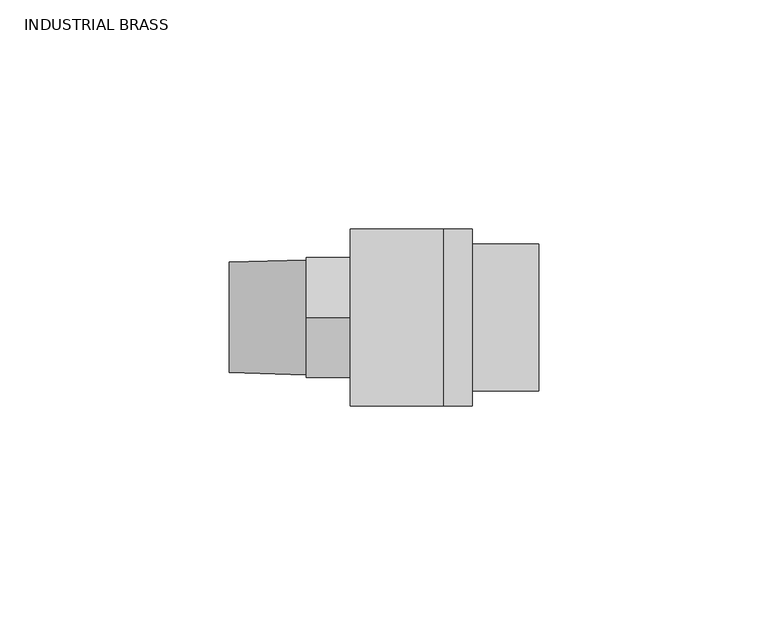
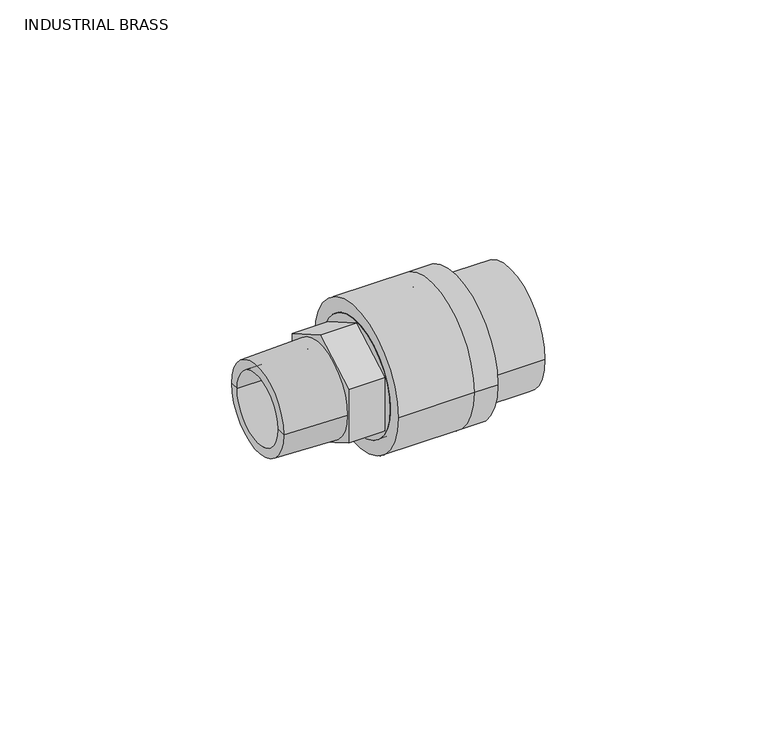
"""IFC4 building model written with IfcOpenShell, lengths in millimetres: valve geometry, Aquatherm - Transition Piece - M HEX : INDUSTRIAL BRASS."""

from ifc_helpers import new_model, si_unit, frame, origin, place, context, project, spatial, polyline, circle_curve, source, transform, mapped, element, save
from ifc_brep_helpers import plane_surface, cylinder_surface, revolved_surface, advanced_brep


def industrial_brass_f66fdbb3(model_context):
    return source(origin(), model_context, "Body", "AdvancedBrep", [
        advanced_brep(
        [(20.32, -15.494, 0.0), (20.32, 15.494, 0.0), (20.32, -9.525, 0.0), (20.32, 9.525, 0.0), (0.0, -15.494, 0.0), (0.0, 15.494, 0.0), (0.0, 0.0, -15.1046377), (0.0, 13.081, -7.5523189), (0.0, 13.081, 7.5523189), (0.0, 0.0, 15.1046377), (0.0, -13.081, 7.5523189), (0.0, -13.081, -7.5523189), (0.0, -9.525, 0.0), (0.0, 9.525, 0.0), (-9.652, 0.0, -15.1046377), (-9.652, -13.081, -7.5523189), (-9.652, -13.081, 7.5523189), (-9.652, 0.0, 15.1046377), (-9.652, 13.081, 7.5523189), (-9.652, 13.081, -7.5523189), (-9.652, -12.5560449, 0.0), (-9.652, 12.5560449, 0.0), (-9.652, -9.525, 0.0), (-9.652, 9.525, 0.0), (-26.416, 9.525, 0.0), (-26.416, -9.525, 0.0), (-26.416, 12.0502051, 0.0), (-26.416, -12.0502051, 0.0)],
        [
            (0, 1, circle_curve(frame((20.32, 0.0, 0.0), z_axis=(1.0, 0.0, 0.0), x_axis=(0.0, 1.0, 0.0)), 15.494)),
            (1, 0, circle_curve(frame((20.32, 0.0, 0.0), z_axis=(1.0, 0.0, 0.0), x_axis=(0.0, 1.0, 0.0)), 15.494)),
            (2, 3, circle_curve(frame((20.32, 0.0, 0.0), z_axis=(-1.0, 0.0, 0.0), x_axis=(0.0, 1.0, 0.0)), 9.525)),
            (3, 2, circle_curve(frame((20.32, 0.0, 0.0), z_axis=(-1.0, 0.0, 0.0), x_axis=(0.0, 1.0, 0.0)), 9.525)),
            (4, 5, circle_curve(frame((0.0, 0.0, 0.0), z_axis=(-1.0, 0.0, 0.0), x_axis=(0.0, 1.0, 0.0)), 15.494)),
            (5, 4, circle_curve(frame((0.0, 0.0, 0.0), z_axis=(-1.0, 0.0, 0.0), x_axis=(0.0, 1.0, 0.0)), 15.494)),
            (6, 7),
            (7, 8),
            (8, 9),
            (9, 10),
            (10, 11),
            (11, 6),
            (0, 4),
            (5, 1),
            (2, 12),
            (12, 13, circle_curve(frame((0.0, 0.0, 0.0), z_axis=(-1.0, 0.0, 0.0), x_axis=(0.0, 1.0, 0.0)), 9.525)),
            (13, 3),
            (13, 12, circle_curve(frame((0.0, 0.0, 0.0), z_axis=(-1.0, 0.0, 0.0), x_axis=(0.0, 1.0, 0.0)), 9.525)),
            (14, 15),
            (15, 16),
            (16, 17),
            (17, 18),
            (18, 19),
            (19, 14),
            (20, 21, circle_curve(frame((-9.652, 0.0, 0.0), z_axis=(1.0, 0.0, 0.0), x_axis=(0.0, 1.0, 0.0)), 12.5560449)),
            (21, 20, circle_curve(frame((-9.652, 0.0, 0.0), z_axis=(1.0, 0.0, 0.0), x_axis=(0.0, 1.0, 0.0)), 12.5560449)),
            (19, 7),
            (6, 14),
            (18, 8),
            (17, 9),
            (16, 10),
            (15, 11),
            (12, 22),
            (22, 23, circle_curve(frame((-9.652, 0.0, 0.0), z_axis=(-1.0, 0.0, 0.0), x_axis=(0.0, 1.0, 0.0)), 9.525)),
            (23, 13),
            (23, 22, circle_curve(frame((-9.652, 0.0, 0.0), z_axis=(-1.0, 0.0, 0.0), x_axis=(0.0, 1.0, 0.0)), 9.525)),
            (23, 24),
            (24, 25, circle_curve(frame((-26.416, 0.0, 0.0), z_axis=(-1.0, 0.0, 0.0), x_axis=(0.0, 1.0, 0.0)), 9.525)),
            (25, 22),
            (25, 24, circle_curve(frame((-26.416, 0.0, 0.0), z_axis=(-1.0, 0.0, 0.0), x_axis=(0.0, 1.0, 0.0)), 9.525)),
            (24, 26),
            (26, 27, circle_curve(frame((-26.416, 0.0, 0.0), z_axis=(-1.0, 0.0, 0.0), x_axis=(0.0, 1.0, 0.0)), 12.0502051)),
            (27, 25),
            (27, 26, circle_curve(frame((-26.416, 0.0, 0.0), z_axis=(-1.0, 0.0, 0.0), x_axis=(0.0, 1.0, 0.0)), 12.0502051)),
            (26, 21),
            (20, 27),
        ],
        [
            plane_surface(frame((20.32, 15.494, 0.0), z_axis=(1.0, 0.0, 0.0), x_axis=(0.0, 0.0, 1.0))),
            plane_surface(frame((0.0, 15.494, 0.0), z_axis=(-1.0, 0.0, 0.0), x_axis=(0.0, 0.0, -1.0))),
            cylinder_surface(frame((0.0, 0.0, 0.0), z_axis=(1.0, 0.0, 0.0), x_axis=(0.0, 1.0, 0.0)), 15.494),
            revolved_surface(polyline([(0.0, 9.525, 0.0), (20.32, 9.525, 0.0)]), (17.447219, 0.0, 0.0), (-1.0, 0.0, 0.0)),
            plane_surface(frame((-9.652, 0.0, -15.1046377), z_axis=(-1.0, 0.0, 0.0), x_axis=(0.0, -0.8660254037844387, -0.49999999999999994))),
            plane_surface(frame((0.0, 0.0, -15.1046377), z_axis=(0.0, 0.49999999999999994, -0.8660254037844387), x_axis=(-1.0, 0.0, 0.0))),
            plane_surface(frame((0.0, 13.081, -7.5523189), z_axis=(0.0, 1.0, 0.0), x_axis=(-1.0, 0.0, 0.0))),
            plane_surface(frame((0.0, 13.081, 7.5523189), z_axis=(0.0, 0.499999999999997, 0.8660254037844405), x_axis=(-1.0, 0.0, 0.0))),
            plane_surface(frame((0.0, 0.0, 15.1046377), z_axis=(0.0, -0.5000000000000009, 0.8660254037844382), x_axis=(-1.0, 0.0, 0.0))),
            plane_surface(frame((0.0, -13.081, 7.5523189), z_axis=(0.0, -1.0, 0.0), x_axis=(-1.0, 0.0, 0.0))),
            plane_surface(frame((0.0, -13.081, -7.5523189), z_axis=(0.0, -0.499999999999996, -0.8660254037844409), x_axis=(-1.0, 0.0, 0.0))),
            revolved_surface(polyline([(-9.652, 9.525, 0.0), (0.0, 9.525, 0.0)]), (0.0, 0.0, 0.0), (-1.0, 0.0, 0.0)),
            revolved_surface(polyline([(-26.416000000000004, 9.525, 0.0), (-9.652000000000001, 9.525, 0.0)]), (-61.2890688, 0.0, 0.0), (-1.0, 0.0, 0.0)),
            plane_surface(frame((-26.416, 0.0, 0.0), z_axis=(-1.0, 0.0, 0.0), x_axis=(0.0, 1.0, 0.0))),
            revolved_surface(polyline([(-9.652, 12.5560449, 0.0), (-26.416, 12.0502051, 0.0)]), (-61.2890688, 0.0, 0.0), (-1.0, 0.0, 0.0)),
        ],
        [
            (0, [[1, 2], [3, 4]]),
            (1, [[5, 6], [7, 8, 9, 10, 11, 12]]),
            (2, [[-1, 13, -6, 14]]),
            (2, [[-2, -14, -5, -13]]),
            (3, [[-3, 15, 16, 17]]),
            (3, [[-4, -17, 18, -15]]),
            (4, [[19, 20, 21, 22, 23, 24], [25, 26]]),
            (5, [[-24, 27, -7, 28]]),
            (6, [[-23, 29, -8, -27]]),
            (7, [[-22, 30, -9, -29]]),
            (8, [[-21, 31, -10, -30]]),
            (9, [[-20, 32, -11, -31]]),
            (10, [[-19, -28, -12, -32]]),
            (11, [[33, 34, 35, -16]]),
            (11, [[-33, -18, -35, 36]]),
            (12, [[37, 38, 39, -36]]),
            (12, [[-37, -34, -39, 40]]),
            (13, [[-38, 41, 42, 43]]),
            (13, [[-40, -43, 44, -41]]),
            (14, [[-42, 45, -25, 46]]),
            (14, [[-44, -46, -26, -45]]),
        ],
    ),
        advanced_brep(
        [(0.0, -19.304, 0.0), (0.0, 19.304, 0.0), (0.0, -15.494, 0.0), (0.0, 15.494, 0.0), (20.32, 19.304, 0.0), (20.32, -19.304, 0.0), (20.32, 15.494, 0.0), (20.32, -15.494, 0.0), (26.67, -19.304, 0.0), (26.67, 19.304, 0.0), (26.67, 16.002, 0.0), (26.67, -16.002, 0.0), (26.67, 10.033, 0.0), (26.67, -10.033, 0.0), (26.67, -6.35, 0.0), (26.67, 6.35, 0.0), (20.32, -6.35, 0.0), (20.32, 6.35, 0.0), (41.148, -16.002, 0.0), (41.148, 16.002, 0.0), (41.148, -10.033, 0.0), (41.148, 10.033, 0.0)],
        [
            (0, 1, circle_curve(frame((0.0, 0.0, 0.0), z_axis=(-1.0, 0.0, 0.0), x_axis=(0.0, 1.0, 0.0)), 19.304)),
            (1, 0, circle_curve(frame((0.0, 0.0, 0.0), z_axis=(-1.0, 0.0, 0.0), x_axis=(0.0, 1.0, 0.0)), 19.304)),
            (2, 3, circle_curve(frame((0.0, 0.0, 0.0), z_axis=(1.0, 0.0, 0.0), x_axis=(0.0, 1.0, 0.0)), 15.494)),
            (3, 2, circle_curve(frame((0.0, 0.0, 0.0), z_axis=(1.0, 0.0, 0.0), x_axis=(0.0, 1.0, 0.0)), 15.494)),
            (1, 4),
            (4, 5, circle_curve(frame((20.32, 0.0, 0.0), z_axis=(-1.0, 0.0, 0.0), x_axis=(0.0, 1.0, 0.0)), 19.304)),
            (5, 0),
            (5, 4, circle_curve(frame((20.32, 0.0, 0.0), z_axis=(-1.0, 0.0, 0.0), x_axis=(0.0, 1.0, 0.0)), 19.304)),
            (3, 6),
            (6, 7, circle_curve(frame((20.32, 0.0, 0.0), z_axis=(1.0, 0.0, 0.0), x_axis=(0.0, 1.0, 0.0)), 15.494)),
            (7, 2),
            (7, 6, circle_curve(frame((20.32, 0.0, 0.0), z_axis=(1.0, 0.0, 0.0), x_axis=(0.0, 1.0, 0.0)), 15.494)),
            (8, 9, circle_curve(frame((26.67, 0.0, 0.0), z_axis=(1.0, 0.0, 0.0), x_axis=(0.0, 1.0, 0.0)), 19.304)),
            (9, 8, circle_curve(frame((26.67, 0.0, 0.0), z_axis=(1.0, 0.0, 0.0), x_axis=(0.0, 1.0, 0.0)), 19.304)),
            (10, 11, circle_curve(frame((26.67, 0.0, 0.0), z_axis=(-1.0, 0.0, 0.0), x_axis=(0.0, 1.0, 0.0)), 16.002)),
            (11, 10, circle_curve(frame((26.67, 0.0, 0.0), z_axis=(-1.0, 0.0, 0.0), x_axis=(0.0, 1.0, 0.0)), 16.002)),
            (12, 13, circle_curve(frame((26.67, 0.0, 0.0), z_axis=(1.0, 0.0, 0.0), x_axis=(0.0, 1.0, 0.0)), 10.033)),
            (13, 12, circle_curve(frame((26.67, 0.0, 0.0), z_axis=(1.0, 0.0, 0.0), x_axis=(0.0, 1.0, 0.0)), 10.033)),
            (14, 15, circle_curve(frame((26.67, 0.0, 0.0), z_axis=(-1.0, 0.0, 0.0), x_axis=(0.0, 1.0, 0.0)), 6.35)),
            (15, 14, circle_curve(frame((26.67, 0.0, 0.0), z_axis=(-1.0, 0.0, 0.0), x_axis=(0.0, 1.0, 0.0)), 6.35)),
            (16, 17, circle_curve(frame((20.32, 0.0, 0.0), z_axis=(1.0, 0.0, 0.0), x_axis=(0.0, 1.0, 0.0)), 6.35)),
            (17, 16, circle_curve(frame((20.32, 0.0, 0.0), z_axis=(1.0, 0.0, 0.0), x_axis=(0.0, 1.0, 0.0)), 6.35)),
            (8, 5),
            (4, 9),
            (14, 16),
            (17, 15),
            (18, 19, circle_curve(frame((41.148, 0.0, 0.0), z_axis=(1.0, 0.0, 0.0), x_axis=(0.0, 1.0, 0.0)), 16.002)),
            (19, 18, circle_curve(frame((41.148, 0.0, 0.0), z_axis=(1.0, 0.0, 0.0), x_axis=(0.0, 1.0, 0.0)), 16.002)),
            (20, 21, circle_curve(frame((41.148, 0.0, 0.0), z_axis=(-1.0, 0.0, 0.0), x_axis=(0.0, 1.0, 0.0)), 10.033)),
            (21, 20, circle_curve(frame((41.148, 0.0, 0.0), z_axis=(-1.0, 0.0, 0.0), x_axis=(0.0, 1.0, 0.0)), 10.033)),
            (18, 11),
            (10, 19),
            (20, 13),
            (12, 21),
        ],
        [
            plane_surface(frame((0.0, 19.304, 0.0), z_axis=(-1.0, 0.0, 0.0), x_axis=(0.0, 0.0, -1.0))),
            cylinder_surface(frame((0.0, 0.0, 0.0), z_axis=(1.0, 0.0, 0.0), x_axis=(0.0, 1.0, 0.0)), 19.304),
            revolved_surface(polyline([(0.0, 15.494, 0.0), (20.32, 15.494, 0.0)]), (-38.1, 0.0, 0.0), (-1.0, 0.0, 0.0)),
            plane_surface(frame((26.67, 19.304, 0.0), z_axis=(1.0, 0.0, 0.0), x_axis=(0.0, 0.0, 1.0))),
            plane_surface(frame((20.32, 19.304, 0.0), z_axis=(-1.0, 0.0, 0.0), x_axis=(0.0, 0.0, -1.0))),
            cylinder_surface(frame((20.32, 0.0, 0.0), z_axis=(1.0, 0.0, 0.0), x_axis=(0.0, 1.0, 0.0)), 19.304),
            revolved_surface(polyline([(20.320000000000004, 6.35, 0.0), (26.669999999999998, 6.35, 0.0)]), (-19.05, 0.0, 0.0), (-1.0, 0.0, 0.0)),
            plane_surface(frame((41.148, 16.002, 0.0), z_axis=(1.0, 0.0, 0.0), x_axis=(0.0, 0.0, 1.0))),
            cylinder_surface(frame((26.67, 0.0, 0.0), z_axis=(1.0, 0.0, 0.0), x_axis=(0.0, 1.0, 0.0)), 16.002),
            revolved_surface(polyline([(26.67, 10.033, 0.0), (41.148, 10.033, 0.0)]), (0.0, 0.0, 0.0), (-1.0, 0.0, 0.0)),
        ],
        [
            (0, [[1, 2], [3, 4]]),
            (1, [[-2, 5, 6, 7]]),
            (1, [[-1, -7, 8, -5]]),
            (2, [[-4, 9, 10, 11]]),
            (2, [[-3, -11, 12, -9]]),
            (3, [[13, 14], [15, 16]]),
            (3, [[17, 18], [19, 20]]),
            (4, [[-10, -12], [21, 22]]),
            (5, [[-13, 23, -6, 24]]),
            (5, [[-14, -24, -8, -23]]),
            (6, [[-19, 25, -22, 26]]),
            (6, [[-20, -26, -21, -25]]),
            (7, [[27, 28], [29, 30]]),
            (8, [[-27, 31, -15, 32]]),
            (8, [[-28, -32, -16, -31]]),
            (9, [[-29, 33, -17, 34]]),
            (9, [[-30, -34, -18, -33]]),
        ],
    ),
    ])


if __name__ == "__main__":
    model = new_model("IFC4")
    model_context = context("Model", 3, world=origin())
    ifc_project = project(units=[si_unit("LENGTHUNIT", "METRE", prefix="MILLI")], contexts=[model_context])
    site = spatial("IfcSite", under=ifc_project)
    building = spatial("IfcBuilding", under=site)
    placement = place(None, origin())
    industrial_brass_shape = industrial_brass_f66fdbb3(model_context)
    element("IfcValve", 1, ObjectType="Aquatherm - Transition Piece - M HEX : INDUSTRIAL BRASS", at=placement, inside=building, context=model_context, shape_type="MappedRepresentation", body=[
        mapped(industrial_brass_shape, transform((0.0, 0.0, 0.0), x_axis=(1.0, 0.0, 0.0), y_axis=(0.0, 1.0, 0.0), z_axis=(0.0, 0.0, 1.0))),
    ])
    save(model, "model.ifc")
